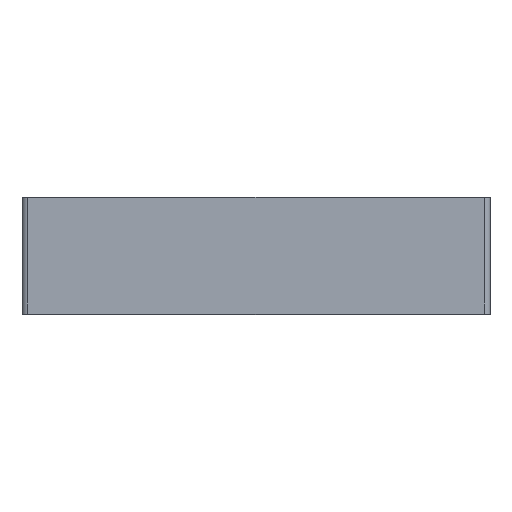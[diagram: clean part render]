
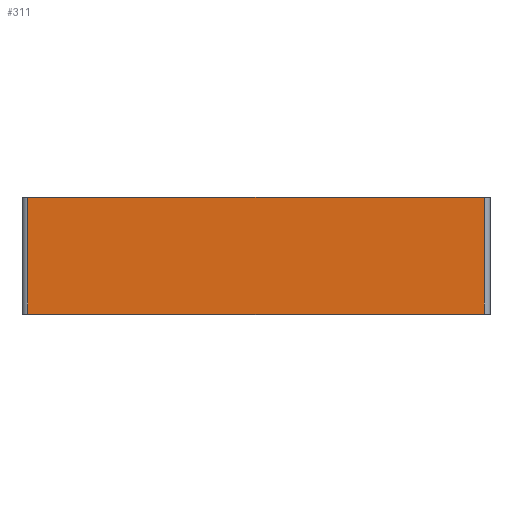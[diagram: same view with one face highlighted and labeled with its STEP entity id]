
A CAD part, top view. The second image highlights one B-rep face of the part: STEP entity #311.
In plain terms, the highlighted planar face has unit normal (0, 0, 1).
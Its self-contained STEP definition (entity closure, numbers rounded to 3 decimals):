
#7 = EDGE_CURVE ( 'NONE', #272, #1614, #1428, .T. ) ;
#8 = VECTOR ( 'NONE', #936, 1000. ) ;
#65 = DIRECTION ( 'NONE',  ( 1., 0., 0. ) ) ;
#119 = ORIENTED_EDGE ( 'NONE', *, *, #1808, .T. ) ;
#149 = CARTESIAN_POINT ( 'NONE',  ( 40., 20., 40. ) ) ;
#272 = VERTEX_POINT ( 'NONE', #984 ) ;
#311 = ADVANCED_FACE ( 'NONE', ( #365 ), #1201, .T. ) ;
#365 = FACE_OUTER_BOUND ( 'NONE', #1385, .T. ) ;
#374 = CARTESIAN_POINT ( 'NONE',  ( 40., 0., 40. ) ) ;
#403 = CARTESIAN_POINT ( 'NONE',  ( -39., 20., 40. ) ) ;
#490 = LINE ( 'NONE', #1482, #1499 ) ;
#615 = AXIS2_PLACEMENT_3D ( 'NONE', #1044, #1051, #65 ) ;
#668 = DIRECTION ( 'NONE',  ( 0., 1., 0. ) ) ;
#747 = VECTOR ( 'NONE', #668, 1000. ) ;
#792 = DIRECTION ( 'NONE',  ( 0., -1., 0. ) ) ;
#819 = CARTESIAN_POINT ( 'NONE',  ( 39., 20., 40. ) ) ;
#868 = VECTOR ( 'NONE', #1177, 1000. ) ;
#936 = DIRECTION ( 'NONE',  ( -1., 0., 0. ) ) ;
#937 = EDGE_CURVE ( 'NONE', #272, #1411, #1811, .T. ) ;
#984 = CARTESIAN_POINT ( 'NONE',  ( 39., 0., 40. ) ) ;
#985 = ORIENTED_EDGE ( 'NONE', *, *, #1591, .T. ) ;
#1044 = CARTESIAN_POINT ( 'NONE',  ( 40., 20., 40. ) ) ;
#1051 = DIRECTION ( 'NONE',  ( 0., 0., 1. ) ) ;
#1103 = ORIENTED_EDGE ( 'NONE', *, *, #937, .T. ) ;
#1177 = DIRECTION ( 'NONE',  ( -1., 0., 0. ) ) ;
#1201 = PLANE ( 'NONE',  #615 ) ;
#1206 = CARTESIAN_POINT ( 'NONE',  ( -39., 0., 40. ) ) ;
#1311 = LINE ( 'NONE', #149, #868 ) ;
#1385 = EDGE_LOOP ( 'NONE', ( #119, #985, #1531, #1103 ) ) ;
#1411 = VERTEX_POINT ( 'NONE', #1719 ) ;
#1428 = LINE ( 'NONE', #374, #8 ) ;
#1482 = CARTESIAN_POINT ( 'NONE',  ( -39., 20., 40. ) ) ;
#1499 = VECTOR ( 'NONE', #792, 1000. ) ;
#1531 = ORIENTED_EDGE ( 'NONE', *, *, #7, .F. ) ;
#1591 = EDGE_CURVE ( 'NONE', #1691, #1614, #490, .T. ) ;
#1614 = VERTEX_POINT ( 'NONE', #1206 ) ;
#1691 = VERTEX_POINT ( 'NONE', #403 ) ;
#1719 = CARTESIAN_POINT ( 'NONE',  ( 39., 20., 40. ) ) ;
#1808 = EDGE_CURVE ( 'NONE', #1411, #1691, #1311, .T. ) ;
#1811 = LINE ( 'NONE', #819, #747 ) ;
